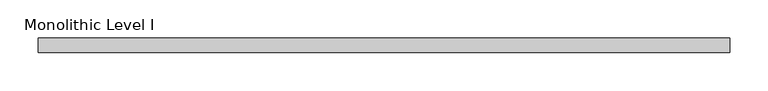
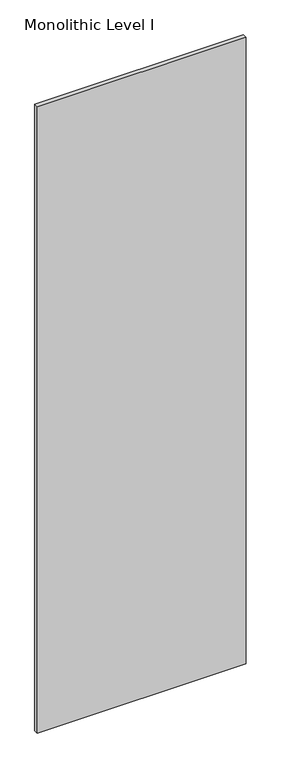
"""IFC4 building model written with IfcOpenShell, lengths in millimetres: proxy geometry, Panel-Fascia-Teknion-Altos-Standard : Monolithic Level I."""

import ifcopenshell
import ifcopenshell.guid

model = None  # the IFC model being written
_history = None  # IfcOwnerHistory: only IFC2X3 demands one
_inside = {}  # id of a spatial element -> (the spatial element, [elements in it])
_under = {}  # id of a project, library or spatial element -> (it, [spatial elements below it])
_declared = {}  # id of a project -> (the project, [libraries it declares])
_typed = {}  # id of a type object -> (the type object, [elements of that type])
_made_of = {}  # id of a material, layer set ... -> (it, [elements and type objects made of it])


def new_model(schema):
    """Start an empty IFC model of exactly this schema.

    Asked for "IFC4X3", IfcOpenShell would pick the latest addendum, in which some entities
    have other attributes; the version numbers below select the first issue.
    IFC2X3 requires an IfcOwnerHistory on every rooted entity: one is made here for all.
    """
    global model, _history
    if schema == "IFC4X3":
        model = ifcopenshell.file(schema_version=(4, 3, 0, 0))
    else:
        model = ifcopenshell.file(schema=schema)
    _inside.clear()
    _under.clear()
    _declared.clear()
    _typed.clear()
    _made_of.clear()
    _history = None
    if model.schema == "IFC2X3":
        org = make("IfcOrganization", Name="unknown")
        user = make(
            "IfcPersonAndOrganization",
            ThePerson=make("IfcPerson", FamilyName="unknown"),
            TheOrganization=org,
        )
        app = make(
            "IfcApplication",
            ApplicationDeveloper=org,
            Version="unknown",
            ApplicationFullName="unknown",
            ApplicationIdentifier="unknown",
        )
        _history = make(
            "IfcOwnerHistory",
            OwningUser=user,
            OwningApplication=app,
            ChangeAction="ADDED",
            CreationDate=0,
        )
    return model


def make(cls, **values):
    """One entity of the class cls with the attributes given. An attribute that is None is left unset."""
    return model.create_entity(
        cls, **{name: value for name, value in values.items() if value is not None}
    )


def rooted(cls, **values):
    """An entity with a GlobalId (a new one), such as an element, a storey or a relation."""
    return make(cls, GlobalId=ifcopenshell.guid.new(), OwnerHistory=_history, **values)


def si_unit(unit_type, name, prefix=None):
    """IfcSIUnit, for example si_unit("LENGTHUNIT", "METRE", prefix="MILLI")."""
    return make("IfcSIUnit", UnitType=unit_type, Prefix=prefix, Name=name)


def assignment(units):
    """IfcUnitAssignment: the units of a project."""
    return None if units is None else make("IfcUnitAssignment", Units=units)


def point(xyz):
    """IfcCartesianPoint."""
    return None if xyz is None else make("IfcCartesianPoint", Coordinates=xyz)


def direction(xyz):
    """IfcDirection."""
    return None if xyz is None else make("IfcDirection", DirectionRatios=xyz)


def frame(location, z_axis=None, x_axis=None):
    """IfcAxis2Placement3D, a coordinate frame: its origin and axes. An axis left out is left unset."""
    return make(
        "IfcAxis2Placement3D",
        Location=point(location),
        Axis=direction(z_axis),
        RefDirection=direction(x_axis),
    )


def origin():
    """The frame at (0, 0, 0) with its axes left unset."""
    return frame((0.0, 0.0, 0.0))


def place(relative_to, where):
    """IfcLocalPlacement: puts the frame where relative to a parent placement (None: the world)."""
    return make(
        "IfcLocalPlacement", PlacementRelTo=relative_to, RelativePlacement=where
    )


def context(
    kind, dimensions, precision=None, world=None, true_north=None, identifier=None
):
    """IfcGeometricRepresentationContext, for example the 3D "Model" context."""
    return make(
        "IfcGeometricRepresentationContext",
        ContextIdentifier=identifier,
        ContextType=kind,
        CoordinateSpaceDimension=dimensions,
        Precision=precision,
        WorldCoordinateSystem=world,
        TrueNorth=true_north,
    )


def project(units=None, contexts=None):
    """IfcProject with its units and contexts."""
    return rooted(
        "IfcProject",
        Name="project",
        RepresentationContexts=contexts,
        UnitsInContext=assignment(units),
    )


def spatial(cls, under=None, at=None, **own):
    """A site, building, storey or space (cls), placed at a placement, below another one or the project."""
    s = rooted(cls, ObjectPlacement=at, **own)
    if under is not None:
        _under.setdefault(under.id(), (under, []))[1].append(s)
    return s


def polyline(points):
    """IfcPolyline through the points."""
    return make("IfcPolyline", Points=[point(p) for p in points])


def outline(outer, holes=None, kind="AREA"):
    """IfcArbitraryClosedProfileDef: a profile drawn as a closed curve; with holes, ...WithVoids."""
    if holes is None:
        return make("IfcArbitraryClosedProfileDef", ProfileType=kind, OuterCurve=outer)
    return make(
        "IfcArbitraryProfileDefWithVoids",
        ProfileType=kind,
        OuterCurve=outer,
        InnerCurves=holes,
    )


def extrude(swept, where, along, depth):
    """IfcExtrudedAreaSolid: the profile swept, set in the frame where, extruded along a direction by depth."""
    return make(
        "IfcExtrudedAreaSolid",
        SweptArea=swept,
        Position=where,
        ExtrudedDirection=direction(along),
        Depth=depth,
    )


def shape(context_of_items, identifier, shape_type, items):
    """IfcShapeRepresentation: the items that make up one representation, for example the "Body"."""
    return make(
        "IfcShapeRepresentation",
        ContextOfItems=context_of_items,
        RepresentationIdentifier=identifier,
        RepresentationType=shape_type,
        Items=items,
    )


def source(mapping_origin, context_of_items, identifier, shape_type, items):
    """IfcRepresentationMap: a shape defined once, which mapped items show again and again."""
    return make(
        "IfcRepresentationMap",
        MappingOrigin=mapping_origin,
        MappedRepresentation=shape(context_of_items, identifier, shape_type, items),
    )


def transform(
    local_origin,
    x_axis=None,
    y_axis=None,
    z_axis=None,
    scale=None,
    scale2=None,
    scale3=None,
    uniform=True,
):
    """IfcCartesianTransformationOperator3D, or its non-uniform kind. x_axis, y_axis, z_axis: its Axis1, 2, 3."""
    if uniform:
        return make(
            "IfcCartesianTransformationOperator3D",
            Axis1=direction(x_axis),
            Axis2=direction(y_axis),
            LocalOrigin=point(local_origin),
            Scale=scale,
            Axis3=direction(z_axis),
        )
    return make(
        "IfcCartesianTransformationOperator3DnonUniform",
        Axis1=direction(x_axis),
        Axis2=direction(y_axis),
        LocalOrigin=point(local_origin),
        Scale=scale,
        Axis3=direction(z_axis),
        Scale2=scale2,
        Scale3=scale3,
    )


def mapped(mapping_source, mapping_target):
    """IfcMappedItem: shows the shape of a source again, moved by a transform."""
    return make(
        "IfcMappedItem", MappingSource=mapping_source, MappingTarget=mapping_target
    )


def made_of(thing, what):
    """Note that an element or type object is made of a material, layer set ...; save() writes the relation."""
    if what is not None:
        _made_of.setdefault(what.id(), (what, []))[1].append(thing)
    return thing


def element(
    cls,
    number,
    at=None,
    inside=None,
    cuts=None,
    type_object=None,
    material=None,
    context=None,
    identifier="Body",
    shape_type=None,
    held_by="IfcProductDefinitionShape",
    body=None,
    shapes=None,
    **own,
):
    """One element of the class cls, such as IfcWall. Its Tag is "e" and its number.

    at: its placement. inside: the storey or other place that contains it. cuts: it is an
    opening in that element (IfcRelVoidsElement). A single representation is given by context,
    identifier, shape_type and body (its items); several are given by shapes. held_by: the class
    of the entity that holds the representations. save() writes the other relations.
    """
    e = rooted(cls, Tag="e%d" % number, ObjectPlacement=at, **own)
    if body is not None:
        shapes = [shape(context, identifier, shape_type, body)]
    if shapes is not None:
        e.Representation = make(held_by, Representations=shapes)
    if inside is not None:
        _inside.setdefault(inside.id(), (inside, []))[1].append(e)
    if cuts is not None:
        rooted(
            "IfcRelVoidsElement", RelatingBuildingElement=cuts, RelatedOpeningElement=e
        )
    if type_object is not None:
        _typed.setdefault(type_object.id(), (type_object, []))[1].append(e)
    return made_of(e, material)


def aggregate(whole, parts):
    """IfcRelAggregates: a whole, such as a stair, and the parts it consists of."""
    return rooted("IfcRelAggregates", RelatingObject=whole, RelatedObjects=parts)


def save(model, path):
    """Write the relations noted so far, then the file.

    IfcRelAggregates (storeys below a building ...), IfcRelContainedInSpatialStructure (elements
    in a storey), IfcRelDefinesByType, IfcRelAssociatesMaterial and IfcRelDeclares: one each for
    every whole, place, type object, material and project.
    """
    for whole, parts in _under.values():
        aggregate(whole, parts)
    for where, things in _inside.values():
        rooted(
            "IfcRelContainedInSpatialStructure",
            RelatedElements=things,
            RelatingStructure=where,
        )
    for kind, things in _typed.values():
        rooted("IfcRelDefinesByType", RelatedObjects=things, RelatingType=kind)
    for what, things in _made_of.values():
        rooted("IfcRelAssociatesMaterial", RelatedObjects=things, RelatingMaterial=what)
    for by, libraries in _declared.values():
        rooted("IfcRelDeclares", RelatingContext=by, RelatedDefinitions=libraries)
    model.write(path)


def monolithic_level_i_5bb2e6cc(model_context):
    return source(origin(), model_context, "Body", "SweptSolid", [
        extrude(outline(polyline([(454.0305563, 9.525), (454.0305563, -9.525), (-454.0305562, -9.525), (-454.0305562, 9.525), (454.0305563, 9.525)])), frame((0.0, 0.0, 3.175), z_axis=(0.0, 0.0, 1.0), x_axis=(1.0, 0.0, 0.0)), (0.0, 0.0, 1.0), 2877.693),
    ])


if __name__ == "__main__":
    model = new_model("IFC4")
    model_context = context("Model", 3, world=origin())
    ifc_project = project(units=[si_unit("LENGTHUNIT", "METRE", prefix="MILLI")], contexts=[model_context])
    site = spatial("IfcSite", under=ifc_project)
    building = spatial("IfcBuilding", under=site)
    placement = place(None, origin())
    monolithic_level_i_shape = monolithic_level_i_5bb2e6cc(model_context)
    element("IfcBuildingElementProxy", 1, Name="Panel-Fascia-Teknion-Altos-Standard : Monolithic Level I", ObjectType="Panel-Fascia-Teknion-Altos-Standard : Monolithic Level I", at=placement, inside=building, context=model_context, shape_type="MappedRepresentation", body=[
        mapped(monolithic_level_i_shape, transform((0.0, 0.0, 0.0), x_axis=(1.0, 0.0, 0.0), y_axis=(0.0, 1.0, 0.0), z_axis=(0.0, 0.0, 1.0))),
    ])
    save(model, "model.ifc")
